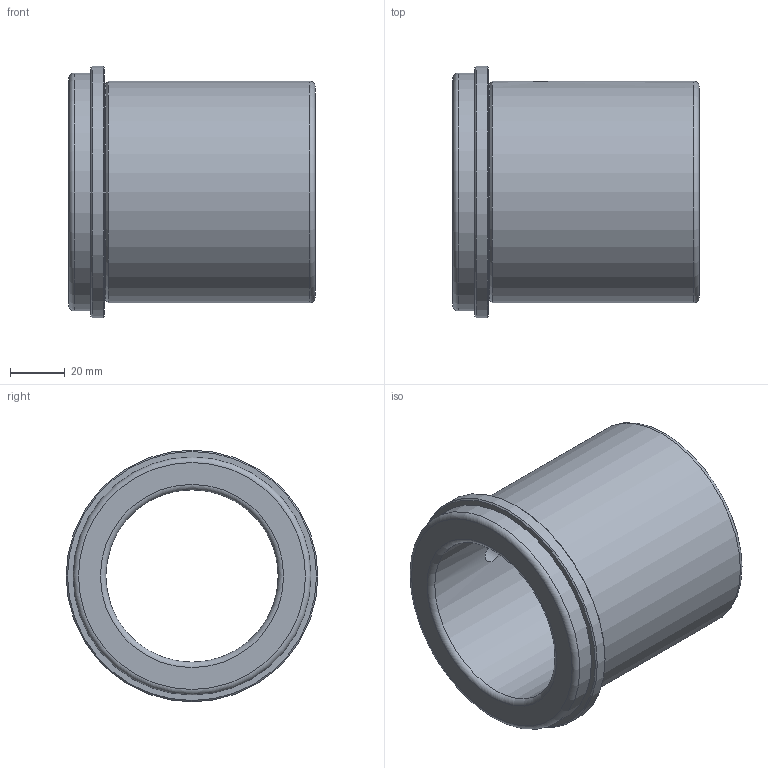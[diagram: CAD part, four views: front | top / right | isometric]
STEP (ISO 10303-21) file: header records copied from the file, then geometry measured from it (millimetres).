
FILE_DESCRIPTION( ( 'STEP AP214' ), '1' );
FILE_NAME( 'p:/temp/worker_1048/temp/exporttempdir_8880_229_JxNBD/format_2/WZ - 4032 63 x 90.stp', '2020-12-03T19:43:39', ( 'License CC BY-ND 4.0' ), ( 'CADENAS' ), ' ', 'PARTsolutions', ' ' );
FILE_SCHEMA( ( 'AUTOMOTIVE_DESIGN { 1 0 10303 214 1 1 1 1 }' ) );
Length unit declared in the file: millimetre
Products named in the file (1): _WZ - 4032 63 x 90
Bounding box: 90 x 92 x 92 mm (x, y, z)
Volume: 194989.4 mm3; surface area: 47968.5 mm2
Topology: 1 solids, 1 shells, 19 faces, 34 edges, 20 vertices
Faces by surface type: cylinder 6, plane 5, torus 4, cone 4
Full cylindrical faces by diameter (mm): 8 x1, 63 x1, 79 x1, 81 x1, 87 x1, 92 x1
Entity records: 694 total; most frequent: CARTESIAN_POINT 190, DIRECTION 76, EDGE_LOOP 40, ORIENTED_EDGE 40, AXIS2_PLACEMENT_3D 38, FACE_OUTER_BOUND 29, EDGE_CURVE 20, VERTEX_POINT 20
